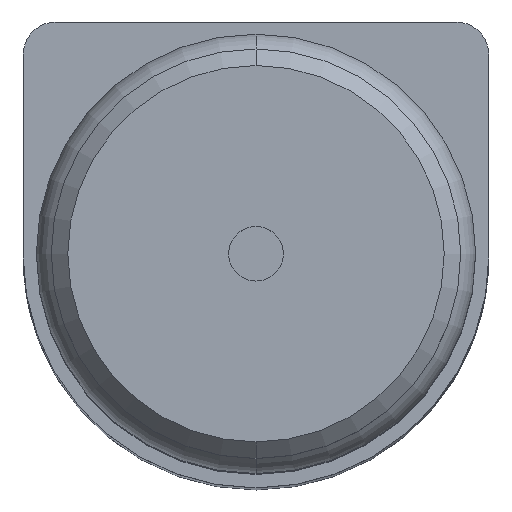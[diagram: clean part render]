
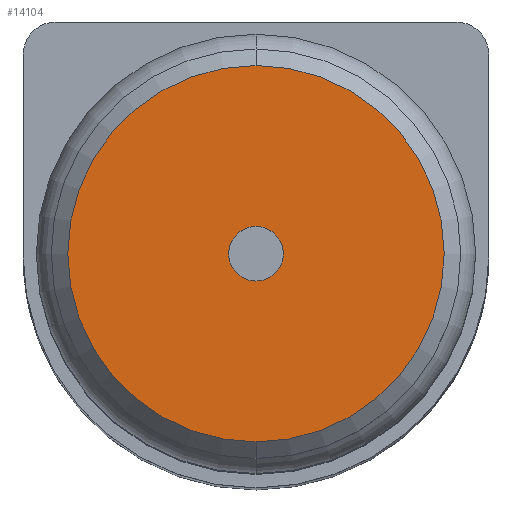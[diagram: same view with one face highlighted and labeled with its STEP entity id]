
A CAD part, top view. The second image highlights one B-rep face of the part: STEP entity #14104.
In plain terms, the highlighted planar face has unit normal (0, 0, 1).
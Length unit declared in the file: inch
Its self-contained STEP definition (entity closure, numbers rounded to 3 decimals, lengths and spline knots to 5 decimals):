
#733 = VERTEX_POINT ( 'NONE', #10257 ) ;
#1314 = CARTESIAN_POINT ( 'NONE',  ( 0., -0.1135, 0. ) ) ;
#3066 = CIRCLE ( 'NONE', #24598, 0.0165 ) ;
#3367 = EDGE_CURVE ( 'NONE', #25169, #733, #23026, .T. ) ;
#3460 = DIRECTION ( 'NONE',  ( 0., 0., 1. ) ) ;
#3858 = ORIENTED_EDGE ( 'NONE', *, *, #3367, .F. ) ;
#5657 = AXIS2_PLACEMENT_3D ( 'NONE', #6626, #15875, #22615 ) ;
#6446 = ORIENTED_EDGE ( 'NONE', *, *, #16877, .F. ) ;
#6554 = EDGE_LOOP ( 'NONE', ( #27157, #23777 ) ) ;
#6626 = CARTESIAN_POINT ( 'NONE',  ( 0., 0., 0. ) ) ;
#6747 = EDGE_CURVE ( 'NONE', #22763, #8967, #12301, .T. ) ;
#7713 = FACE_BOUND ( 'NONE', #22950, .T. ) ;
#7789 = CARTESIAN_POINT ( 'NONE',  ( -0.0165, 0., 0. ) ) ;
#7805 = EDGE_CURVE ( 'NONE', #8967, #22763, #13137, .T. ) ;
#8926 = AXIS2_PLACEMENT_3D ( 'NONE', #19660, #19228, #19796 ) ;
#8967 = VERTEX_POINT ( 'NONE', #1314 ) ;
#10038 = CARTESIAN_POINT ( 'NONE',  ( 0., 0.1135, 0. ) ) ;
#10257 = CARTESIAN_POINT ( 'NONE',  ( 0.0165, 0., 0. ) ) ;
#12115 = CARTESIAN_POINT ( 'NONE',  ( 0., 0., 0. ) ) ;
#12301 = CIRCLE ( 'NONE', #20236, 0.1135 ) ;
#13137 = CIRCLE ( 'NONE', #5657, 0.1135 ) ;
#13874 = AXIS2_PLACEMENT_3D ( 'NONE', #23121, #3460, #25311 ) ;
#14104 = ADVANCED_FACE ( 'NONE', ( #7713, #27367 ), #16674, .T. ) ;
#15112 = CARTESIAN_POINT ( 'NONE',  ( 0., 0., 0. ) ) ;
#15875 = DIRECTION ( 'NONE',  ( 0., 0., -1. ) ) ;
#16674 = PLANE ( 'NONE',  #13874 ) ;
#16818 = DIRECTION ( 'NONE',  ( 0., 1., 0. ) ) ;
#16877 = EDGE_CURVE ( 'NONE', #733, #25169, #3066, .T. ) ;
#17870 = DIRECTION ( 'NONE',  ( 1., 0., 0. ) ) ;
#18711 = DIRECTION ( 'NONE',  ( 0., 0., -1. ) ) ;
#19228 = DIRECTION ( 'NONE',  ( 0., 0., 1. ) ) ;
#19660 = CARTESIAN_POINT ( 'NONE',  ( 0., 0., 0. ) ) ;
#19796 = DIRECTION ( 'NONE',  ( 1., 0., 0. ) ) ;
#20236 = AXIS2_PLACEMENT_3D ( 'NONE', #12115, #18711, #16818 ) ;
#22419 = DIRECTION ( 'NONE',  ( 0., 0., 1. ) ) ;
#22615 = DIRECTION ( 'NONE',  ( 0., 1., 0. ) ) ;
#22763 = VERTEX_POINT ( 'NONE', #10038 ) ;
#22950 = EDGE_LOOP ( 'NONE', ( #6446, #3858 ) ) ;
#23026 = CIRCLE ( 'NONE', #8926, 0.0165 ) ;
#23121 = CARTESIAN_POINT ( 'NONE',  ( 0., 0., 0. ) ) ;
#23777 = ORIENTED_EDGE ( 'NONE', *, *, #7805, .F. ) ;
#24598 = AXIS2_PLACEMENT_3D ( 'NONE', #15112, #22419, #17870 ) ;
#25169 = VERTEX_POINT ( 'NONE', #7789 ) ;
#25311 = DIRECTION ( 'NONE',  ( 0., -1., 0. ) ) ;
#27157 = ORIENTED_EDGE ( 'NONE', *, *, #6747, .F. ) ;
#27367 = FACE_OUTER_BOUND ( 'NONE', #6554, .T. ) ;
